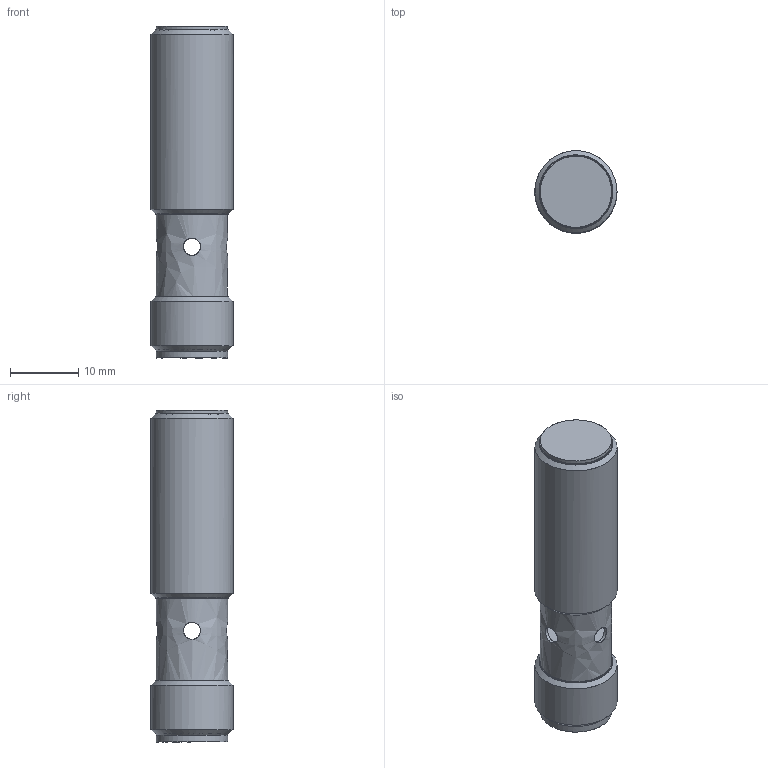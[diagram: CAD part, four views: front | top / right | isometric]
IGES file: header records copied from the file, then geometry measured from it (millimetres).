
Global section: file name: C:\studi10\studi11\INFRA-IGES\DSD-0278.igs; preprocessor: I-DEAS 3D IGES Translator 13; date: 20091214.165846; units: millimetre
Bounding box: 11.98 x 11.99 x 48.5 mm (x, y, z)
Surface area: 5965.6 mm2 (no closed solid volume)
Topology: 0 solids, 0 shells, 101 faces, 768 edges, 676 vertices
Faces by surface type: bspline 101
